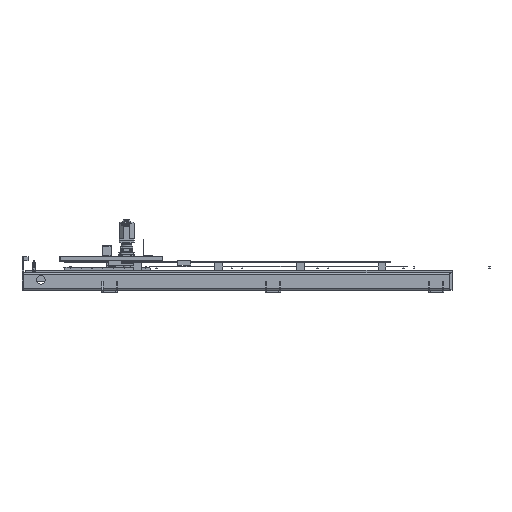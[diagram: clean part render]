
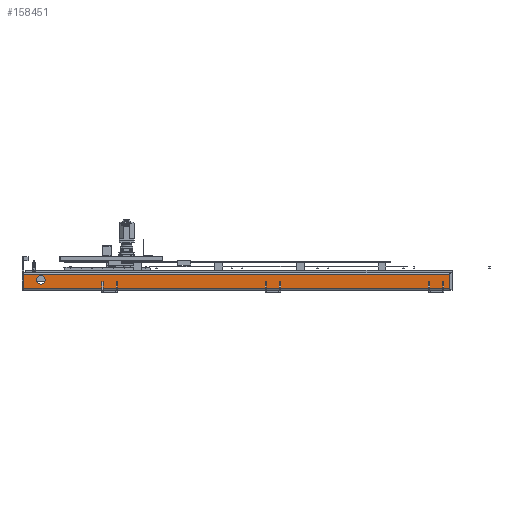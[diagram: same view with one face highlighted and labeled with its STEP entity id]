
A CAD part, front view. The second image highlights one B-rep face of the part: STEP entity #158451.
In plain terms, the highlighted planar face has unit normal (0, -1, 0).
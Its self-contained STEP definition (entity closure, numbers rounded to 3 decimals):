
#18813 = EDGE_CURVE ( 'NONE', #112618, #55602, #325079, .T. ) ;
#19334 = CARTESIAN_POINT ( 'NONE',  ( -2230., -400., 20. ) ) ;
#33373 = CARTESIAN_POINT ( 'NONE',  ( -2480., -400., 84. ) ) ;
#42271 = EDGE_LOOP ( 'NONE', ( #280477, #344746 ) ) ;
#54821 = EDGE_LOOP ( 'NONE', ( #106252, #87438, #210068, #234744 ) ) ;
#55602 = VERTEX_POINT ( 'NONE', #279964 ) ;
#73387 = AXIS2_PLACEMENT_3D ( 'NONE', #139880, #224335, #335790 ) ;
#79212 = VERTEX_POINT ( 'NONE', #120631 ) ;
#84151 = LINE ( 'NONE', #323935, #224257 ) ;
#86610 = DIRECTION ( 'NONE',  ( 1., 0., 0. ) ) ;
#87438 = ORIENTED_EDGE ( 'NONE', *, *, #301457, .F. ) ;
#89770 = DIRECTION ( 'NONE',  ( 1., 0., 0. ) ) ;
#95815 = EDGE_CURVE ( 'NONE', #325369, #147398, #123208, .T. ) ;
#106252 = ORIENTED_EDGE ( 'NONE', *, *, #111836, .T. ) ;
#111836 = EDGE_CURVE ( 'NONE', #147398, #150801, #187148, .T. ) ;
#112618 = VERTEX_POINT ( 'NONE', #19334 ) ;
#115921 = DIRECTION ( 'NONE',  ( 0., -1., 0. ) ) ;
#116284 = CARTESIAN_POINT ( 'NONE',  ( 2480., -400., 84. ) ) ;
#120631 = CARTESIAN_POINT ( 'NONE',  ( -2480., -400., 84. ) ) ;
#123208 = LINE ( 'NONE', #213350, #153753 ) ;
#139880 = CARTESIAN_POINT ( 'NONE',  ( -2280., -400., 20. ) ) ;
#147398 = VERTEX_POINT ( 'NONE', #315165 ) ;
#150801 = VERTEX_POINT ( 'NONE', #207228 ) ;
#153753 = VECTOR ( 'NONE', #214543, 1000. ) ;
#158451 = ADVANCED_FACE ( 'NONE', ( #330942, #309169 ), #328321, .F. ) ;
#184461 = CIRCLE ( 'NONE', #291299, 50. ) ;
#187148 = LINE ( 'NONE', #116284, #296437 ) ;
#189513 = LINE ( 'NONE', #33373, #351586 ) ;
#207228 = CARTESIAN_POINT ( 'NONE',  ( 2480., -400., 84. ) ) ;
#210068 = ORIENTED_EDGE ( 'NONE', *, *, #243386, .F. ) ;
#213350 = CARTESIAN_POINT ( 'NONE',  ( -2480., -400., -84. ) ) ;
#214543 = DIRECTION ( 'NONE',  ( 1., 0., 0. ) ) ;
#224257 = VECTOR ( 'NONE', #267595, 1000. ) ;
#224335 = DIRECTION ( 'NONE',  ( 0., -1., 0. ) ) ;
#234744 = ORIENTED_EDGE ( 'NONE', *, *, #95815, .T. ) ;
#243386 = EDGE_CURVE ( 'NONE', #325369, #79212, #84151, .T. ) ;
#267595 = DIRECTION ( 'NONE',  ( 0., 0., 1. ) ) ;
#273162 = DIRECTION ( 'NONE',  ( 0., 1., 0. ) ) ;
#279964 = CARTESIAN_POINT ( 'NONE',  ( -2330., -400., 20. ) ) ;
#280477 = ORIENTED_EDGE ( 'NONE', *, *, #18813, .F. ) ;
#282005 = CARTESIAN_POINT ( 'NONE',  ( -2480., -400., -84. ) ) ;
#283609 = CARTESIAN_POINT ( 'NONE',  ( -2280., -400., 20. ) ) ;
#291299 = AXIS2_PLACEMENT_3D ( 'NONE', #283609, #115921, #86610 ) ;
#296437 = VECTOR ( 'NONE', #310982, 1000. ) ;
#301323 = CARTESIAN_POINT ( 'NONE',  ( -2480., -400., 84. ) ) ;
#301457 = EDGE_CURVE ( 'NONE', #79212, #150801, #189513, .T. ) ;
#305661 = AXIS2_PLACEMENT_3D ( 'NONE', #301323, #273162, #356519 ) ;
#309169 = FACE_OUTER_BOUND ( 'NONE', #54821, .T. ) ;
#310982 = DIRECTION ( 'NONE',  ( 0., 0., 1. ) ) ;
#315165 = CARTESIAN_POINT ( 'NONE',  ( 2480., -400., -84. ) ) ;
#323935 = CARTESIAN_POINT ( 'NONE',  ( -2480., -400., 84. ) ) ;
#325079 = CIRCLE ( 'NONE', #73387, 50. ) ;
#325369 = VERTEX_POINT ( 'NONE', #282005 ) ;
#328321 = PLANE ( 'NONE',  #305661 ) ;
#330942 = FACE_BOUND ( 'NONE', #42271, .T. ) ;
#335790 = DIRECTION ( 'NONE',  ( 1., 0., 0. ) ) ;
#344746 = ORIENTED_EDGE ( 'NONE', *, *, #353237, .F. ) ;
#351586 = VECTOR ( 'NONE', #89770, 1000. ) ;
#353237 = EDGE_CURVE ( 'NONE', #55602, #112618, #184461, .T. ) ;
#356519 = DIRECTION ( 'NONE',  ( -1., 0., 0. ) ) ;
